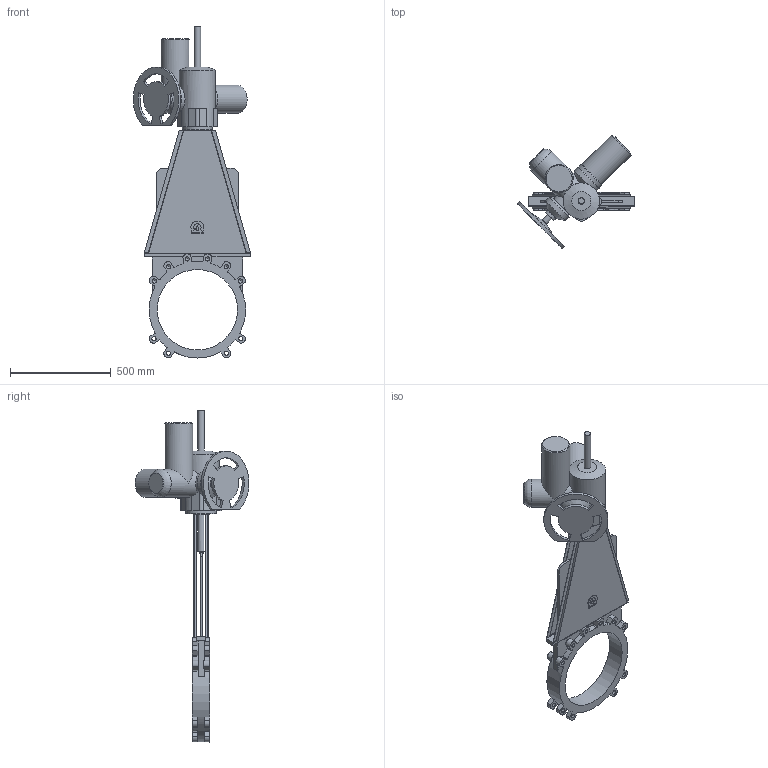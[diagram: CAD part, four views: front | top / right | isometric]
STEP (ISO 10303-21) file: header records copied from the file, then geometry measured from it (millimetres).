
FILE_DESCRIPTION(('STEP AP203'), '1');
FILE_NAME('K51GVA_DN400+MT903.A 30', '', ('UNSPECIFIED'), ('UNSPECIFIED'), 'ASCON STEP Converter 1.6', 'ASCON Math Kernel', '');
FILE_SCHEMA(('CONFIG_CONTROL_DESIGN'));
Length unit declared in the file: millimetre
Bounding box: 583.55 x 565.84 x 1651 mm (x, y, z)
Volume: 30974514.5 mm3; surface area: 2627572.5 mm2
Topology: 1 solids, 1 shells, 350 faces, 982 edges, 636 vertices
Faces by surface type: plane 196, cylinder 127, cone 26, torus 1
Full cylindrical faces by diameter (mm): 10.106 x4, 14 x8, 20.752 x20, 32 x3, 60 x1, 80 x1, 100 x1, 140 x4, 147 x1, 150 x1, 151 x1, 400 x1
Entity records: 14678 total; most frequent: CARTESIAN_POINT 2914, DIRECTION 1897, ORIENTED_EDGE 1788, EDGE_CURVE 894, AXIS2_PLACEMENT_3D 685, VERTEX_POINT 620, LINE 527, VECTOR 527
